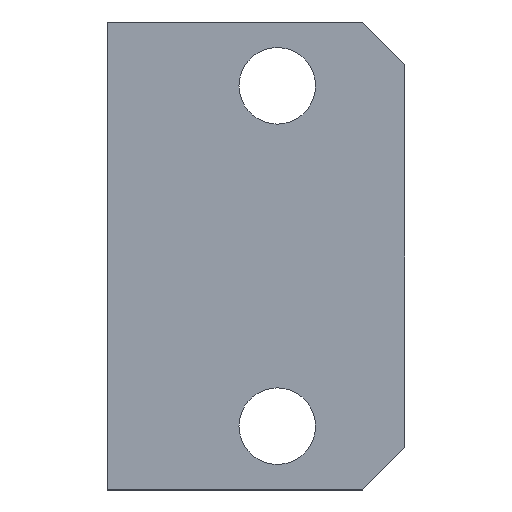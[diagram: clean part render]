
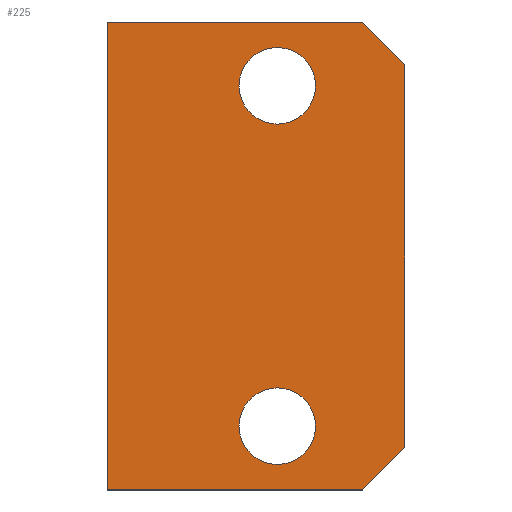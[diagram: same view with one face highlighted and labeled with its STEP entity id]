
A CAD part, top view. The second image highlights one B-rep face of the part: STEP entity #225.
In plain terms, the highlighted planar face has unit normal (0, 0, 1).
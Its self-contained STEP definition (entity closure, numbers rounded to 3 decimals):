
#33=FACE_BOUND('',#76,.T.);
#34=FACE_BOUND('',#77,.T.);
#55=PLANE('',#262);
#65=FACE_OUTER_BOUND('',#75,.T.);
#75=EDGE_LOOP('',(#199,#200,#201,#202,#203,#204));
#76=EDGE_LOOP('',(#205));
#77=EDGE_LOOP('',(#206));
#85=LINE('',#352,#105);
#88=LINE('',#358,#108);
#91=LINE('',#364,#111);
#94=LINE('',#370,#114);
#97=LINE('',#376,#117);
#100=LINE('',#380,#120);
#105=VECTOR('',#290,10.);
#108=VECTOR('',#295,10.);
#111=VECTOR('',#300,10.);
#114=VECTOR('',#305,10.);
#117=VECTOR('',#310,10.);
#120=VECTOR('',#315,10.);
#121=CIRCLE('',#251,4.5);
#123=CIRCLE('',#254,4.5);
#127=VERTEX_POINT('',#334);
#129=VERTEX_POINT('',#340);
#133=VERTEX_POINT('',#349);
#134=VERTEX_POINT('',#351);
#136=VERTEX_POINT('',#357);
#138=VERTEX_POINT('',#363);
#140=VERTEX_POINT('',#369);
#142=VERTEX_POINT('',#375);
#143=EDGE_CURVE('',#127,#127,#121,.T.);
#146=EDGE_CURVE('',#129,#129,#123,.T.);
#151=EDGE_CURVE('',#134,#133,#85,.T.);
#154=EDGE_CURVE('',#136,#134,#88,.T.);
#157=EDGE_CURVE('',#138,#136,#91,.T.);
#160=EDGE_CURVE('',#140,#138,#94,.T.);
#163=EDGE_CURVE('',#142,#140,#97,.T.);
#166=EDGE_CURVE('',#133,#142,#100,.T.);
#199=ORIENTED_EDGE('',*,*,#166,.T.);
#200=ORIENTED_EDGE('',*,*,#163,.T.);
#201=ORIENTED_EDGE('',*,*,#160,.T.);
#202=ORIENTED_EDGE('',*,*,#157,.T.);
#203=ORIENTED_EDGE('',*,*,#154,.T.);
#204=ORIENTED_EDGE('',*,*,#151,.T.);
#205=ORIENTED_EDGE('',*,*,#146,.T.);
#206=ORIENTED_EDGE('',*,*,#143,.T.);
#225=ADVANCED_FACE('',(#65,#33,#34),#55,.T.);
#251=AXIS2_PLACEMENT_3D('',#335,#274,#275);
#254=AXIS2_PLACEMENT_3D('',#341,#281,#282);
#262=AXIS2_PLACEMENT_3D('',#381,#316,#317);
#274=DIRECTION('center_axis',(0.,0.,-1.));
#275=DIRECTION('ref_axis',(-1.,0.,0.));
#281=DIRECTION('center_axis',(0.,0.,-1.));
#282=DIRECTION('ref_axis',(-1.,0.,0.));
#290=DIRECTION('',(0.707,0.707,0.));
#295=DIRECTION('',(1.,0.,0.));
#300=DIRECTION('',(0.,-1.,0.));
#305=DIRECTION('',(-1.,0.,0.));
#310=DIRECTION('',(-0.707,0.707,0.));
#315=DIRECTION('',(0.,1.,0.));
#316=DIRECTION('center_axis',(0.,0.,1.));
#317=DIRECTION('ref_axis',(1.,0.,0.));
#334=CARTESIAN_POINT('',(47.608,-20.,0.25));
#335=CARTESIAN_POINT('Origin',(43.108,-20.,0.25));
#340=CARTESIAN_POINT('',(47.608,20.,0.25));
#341=CARTESIAN_POINT('Origin',(43.108,20.,0.25));
#349=CARTESIAN_POINT('',(58.108,-22.5,0.25));
#351=CARTESIAN_POINT('',(53.108,-27.5,0.25));
#352=CARTESIAN_POINT('',(53.108,-27.5,0.25));
#357=CARTESIAN_POINT('',(23.108,-27.5,0.25));
#358=CARTESIAN_POINT('',(0.,-27.5,0.25));
#363=CARTESIAN_POINT('',(23.108,27.5,0.25));
#364=CARTESIAN_POINT('',(23.108,27.5,0.25));
#369=CARTESIAN_POINT('',(53.108,27.5,0.25));
#370=CARTESIAN_POINT('',(53.108,27.5,0.25));
#375=CARTESIAN_POINT('',(58.108,22.5,0.25));
#376=CARTESIAN_POINT('',(58.108,22.5,0.25));
#380=CARTESIAN_POINT('',(58.108,-22.5,0.25));
#381=CARTESIAN_POINT('Origin',(40.608,0.,0.25));
